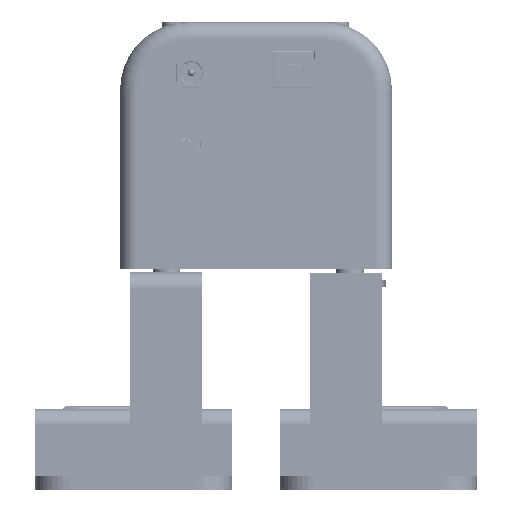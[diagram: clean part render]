
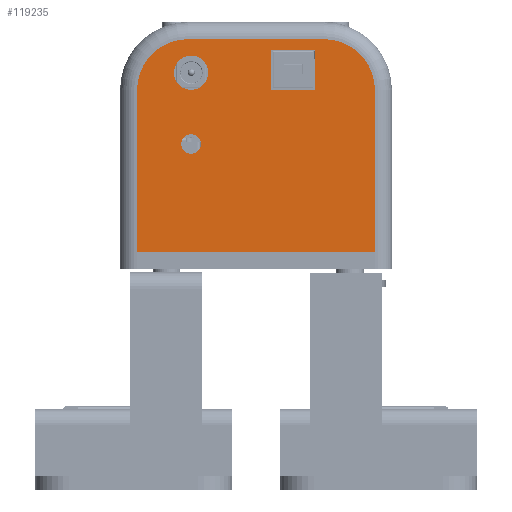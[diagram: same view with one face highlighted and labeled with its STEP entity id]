
A CAD part, left-side view. The second image highlights one B-rep face of the part: STEP entity #119235.
In plain terms, the highlighted planar face has unit normal (-1, 0, 0).
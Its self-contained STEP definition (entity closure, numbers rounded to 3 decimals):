
#3969=FACE_BOUND('',#18817,.T.);
#3970=FACE_BOUND('',#18818,.T.);
#3971=FACE_BOUND('',#18819,.T.);
#6181=PLANE('',#126013);
#11725=FACE_OUTER_BOUND('',#18816,.T.);
#18816=EDGE_LOOP('',(#93540,#93541,#93542,#93543,#93544,#93545));
#18817=EDGE_LOOP('',(#93546));
#18818=EDGE_LOOP('',(#93547));
#18819=EDGE_LOOP('',(#93548,#93549,#93550,#93551));
#28646=LINE('',#201292,#41604);
#28649=LINE('',#201298,#41607);
#28652=LINE('',#201304,#41610);
#28655=LINE('',#201308,#41613);
#28674=LINE('',#201386,#41632);
#28676=LINE('',#201398,#41634);
#28678=LINE('',#201410,#41636);
#28688=LINE('',#201440,#41646);
#41604=VECTOR('',#141897,10.);
#41607=VECTOR('',#141902,10.);
#41610=VECTOR('',#141907,10.);
#41613=VECTOR('',#141912,10.);
#41632=VECTOR('',#142003,10.);
#41634=VECTOR('',#142019,10.);
#41636=VECTOR('',#142033,10.);
#41646=VECTOR('',#142071,10.05);
#49721=CIRCLE('',#125927,2.891);
#49729=CIRCLE('',#125944,5.05);
#49753=CIRCLE('',#125990,15.);
#49757=CIRCLE('',#125996,15.);
#55656=VERTEX_POINT('',#201245);
#55664=VERTEX_POINT('',#201280);
#55668=VERTEX_POINT('',#201289);
#55669=VERTEX_POINT('',#201291);
#55671=VERTEX_POINT('',#201297);
#55673=VERTEX_POINT('',#201303);
#55695=VERTEX_POINT('',#201383);
#55696=VERTEX_POINT('',#201385);
#55698=VERTEX_POINT('',#201391);
#55699=VERTEX_POINT('',#201396);
#55700=VERTEX_POINT('',#201400);
#55702=VERTEX_POINT('',#201406);
#69292=EDGE_CURVE('',#55656,#55656,#49721,.T.);
#69310=EDGE_CURVE('',#55664,#55664,#49729,.T.);
#69315=EDGE_CURVE('',#55669,#55668,#28646,.T.);
#69318=EDGE_CURVE('',#55671,#55669,#28649,.T.);
#69321=EDGE_CURVE('',#55673,#55671,#28652,.T.);
#69324=EDGE_CURVE('',#55668,#55673,#28655,.T.);
#69362=EDGE_CURVE('',#55695,#55696,#28674,.T.);
#69367=EDGE_CURVE('',#55696,#55698,#49753,.T.);
#69369=EDGE_CURVE('',#55698,#55699,#28676,.T.);
#69372=EDGE_CURVE('',#55699,#55700,#49757,.T.);
#69375=EDGE_CURVE('',#55700,#55702,#28678,.T.);
#69390=EDGE_CURVE('',#55702,#55695,#28688,.T.);
#93540=ORIENTED_EDGE('',*,*,#69362,.F.);
#93541=ORIENTED_EDGE('',*,*,#69390,.F.);
#93542=ORIENTED_EDGE('',*,*,#69375,.F.);
#93543=ORIENTED_EDGE('',*,*,#69372,.F.);
#93544=ORIENTED_EDGE('',*,*,#69369,.F.);
#93545=ORIENTED_EDGE('',*,*,#69367,.F.);
#93546=ORIENTED_EDGE('',*,*,#69292,.T.);
#93547=ORIENTED_EDGE('',*,*,#69310,.T.);
#93548=ORIENTED_EDGE('',*,*,#69321,.T.);
#93549=ORIENTED_EDGE('',*,*,#69318,.T.);
#93550=ORIENTED_EDGE('',*,*,#69315,.T.);
#93551=ORIENTED_EDGE('',*,*,#69324,.T.);
#119235=ADVANCED_FACE('',(#11725,#3969,#3970,#3971),#6181,.F.);
#125927=AXIS2_PLACEMENT_3D('',#201246,#141844,#141845);
#125944=AXIS2_PLACEMENT_3D('',#201281,#141888,#141889);
#125990=AXIS2_PLACEMENT_3D('',#201394,#142013,#142014);
#125996=AXIS2_PLACEMENT_3D('',#201404,#142026,#142027);
#126013=AXIS2_PLACEMENT_3D('',#201441,#142072,#142073);
#141844=DIRECTION('center_axis',(1.,0.,0.));
#141845=DIRECTION('ref_axis',(0.,0.,1.));
#141888=DIRECTION('center_axis',(1.,0.,0.));
#141889=DIRECTION('ref_axis',(0.,0.,1.));
#141897=DIRECTION('',(0.,1.,0.));
#141902=DIRECTION('',(0.,0.,-1.));
#141907=DIRECTION('',(0.,-1.,0.));
#141912=DIRECTION('',(0.,0.,1.));
#142003=DIRECTION('',(0.,0.,1.));
#142013=DIRECTION('center_axis',(1.,0.,0.));
#142014=DIRECTION('ref_axis',(0.,0.707,0.707));
#142019=DIRECTION('',(0.,-1.,0.));
#142026=DIRECTION('center_axis',(1.,0.,0.));
#142027=DIRECTION('ref_axis',(0.,-0.707,0.707));
#142033=DIRECTION('',(0.,0.,-1.));
#142071=DIRECTION('',(0.,1.,0.));
#142072=DIRECTION('center_axis',(1.,0.,0.));
#142073=DIRECTION('ref_axis',(0.,0.,-1.));
#201245=CARTESIAN_POINT('',(-153.17,107.121,97.002));
#201246=CARTESIAN_POINT('Origin',(-153.17,107.121,99.893));
#201280=CARTESIAN_POINT('',(-153.17,107.121,115.843));
#201281=CARTESIAN_POINT('Origin',(-153.17,107.121,120.893));
#201289=CARTESIAN_POINT('',(-153.17,83.505,115.833));
#201291=CARTESIAN_POINT('',(-153.17,70.516,115.833));
#201292=CARTESIAN_POINT('',(-153.17,79.258,115.833));
#201297=CARTESIAN_POINT('',(-153.17,70.516,127.641));
#201298=CARTESIAN_POINT('',(-153.17,70.516,112.32));
#201303=CARTESIAN_POINT('',(-153.17,83.505,127.641));
#201304=CARTESIAN_POINT('',(-153.17,85.753,127.641));
#201308=CARTESIAN_POINT('',(-153.17,83.505,106.416));
#201383=CARTESIAN_POINT('',(-153.17,123.038,68.233));
#201385=CARTESIAN_POINT('',(-153.17,123.038,115.767));
#201386=CARTESIAN_POINT('',(-153.17,123.038,97.));
#201391=CARTESIAN_POINT('',(-153.17,108.038,130.767));
#201394=CARTESIAN_POINT('Origin',(-153.17,108.038,115.767));
#201396=CARTESIAN_POINT('',(-153.17,67.962,130.767));
#201398=CARTESIAN_POINT('',(-153.17,88.,130.767));
#201400=CARTESIAN_POINT('',(-153.17,52.962,115.767));
#201404=CARTESIAN_POINT('Origin',(-153.17,67.962,115.767));
#201406=CARTESIAN_POINT('',(-153.17,52.962,68.233));
#201410=CARTESIAN_POINT('',(-153.17,52.962,97.));
#201440=CARTESIAN_POINT('',(-153.17,88.,68.233));
#201441=CARTESIAN_POINT('Origin',(-153.17,88.,97.));
